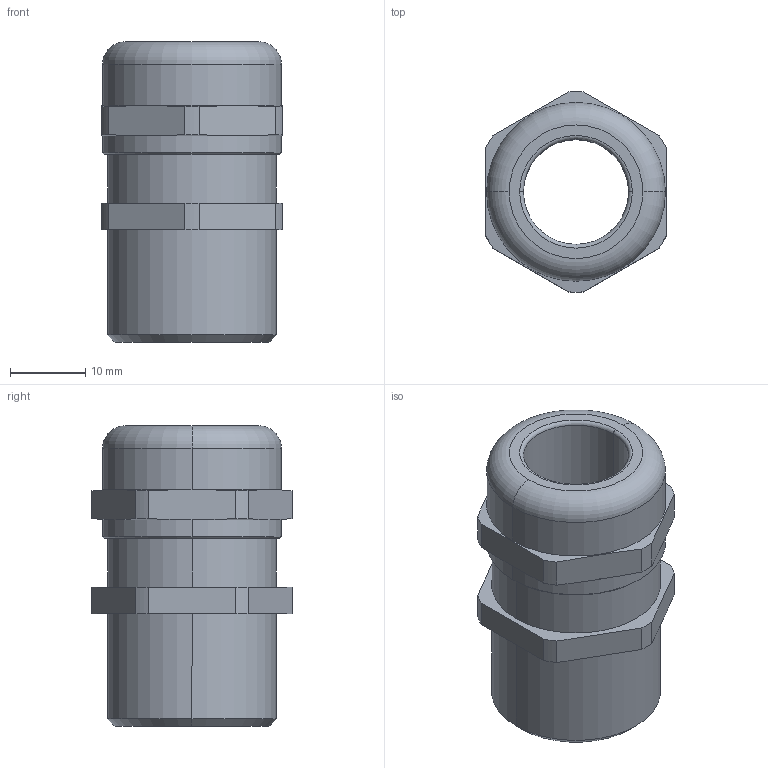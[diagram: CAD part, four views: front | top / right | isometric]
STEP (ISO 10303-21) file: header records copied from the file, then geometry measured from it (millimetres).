
FILE_DESCRIPTION (( 'STEP AP203' ), '1' );
FILE_NAME ('50.016-15MM.STEP', '2005-11-22T08:43:12', ( ' ' ), ( '' ), 'SwSTEP 2.0', 'SolidWorks 2005278', '' );
FILE_SCHEMA (( 'CONFIG_CONTROL_DESIGN' ));
Length unit declared in the file: millimetre
Products named in the file (1): 50.016-15MM
Bounding box: 24 x 26.69 x 40 mm (x, y, z)
Volume: 10825.5 mm3; surface area: 5425.9 mm2
Topology: 1 solids, 1 shells, 88 faces, 228 edges, 148 vertices
Faces by surface type: plane 54, cylinder 22, cone 8, torus 4
Entity records: 2777 total; most frequent: CARTESIAN_POINT 521, ORIENTED_EDGE 456, DIRECTION 446, EDGE_CURVE 228, LINE 156, VECTOR 156, VERTEX_POINT 148, AXIS2_PLACEMENT_3D 145
